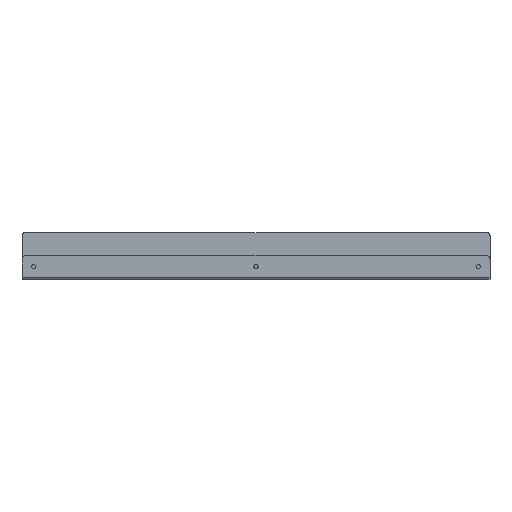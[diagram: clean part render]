
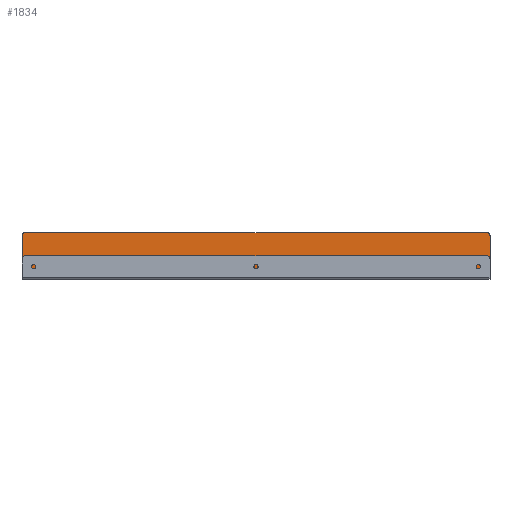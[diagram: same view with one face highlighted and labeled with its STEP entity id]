
A CAD part, top view. The second image highlights one B-rep face of the part: STEP entity #1834.
In plain terms, the highlighted planar face has unit normal (0, 0, 1).
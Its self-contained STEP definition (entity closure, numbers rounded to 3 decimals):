
#43 = DIRECTION ( 'NONE',  ( 0., -1., 0. ) ) ;
#128 = CARTESIAN_POINT ( 'NONE',  ( 400., 35., 0. ) ) ;
#148 = LINE ( 'NONE', #888, #1036 ) ;
#184 = LINE ( 'NONE', #1696, #1550 ) ;
#198 = VECTOR ( 'NONE', #1217, 1000. ) ;
#225 = EDGE_CURVE ( 'NONE', #2084, #2369, #184, .T. ) ;
#318 = CIRCLE ( 'NONE', #791, 5. ) ;
#336 = VERTEX_POINT ( 'NONE', #1961 ) ;
#369 = ORIENTED_EDGE ( 'NONE', *, *, #1909, .T. ) ;
#404 = ORIENTED_EDGE ( 'NONE', *, *, #1732, .T. ) ;
#444 = EDGE_CURVE ( 'NONE', #2359, #929, #623, .T. ) ;
#536 = DIRECTION ( 'NONE',  ( -1., 0., 0. ) ) ;
#574 = CARTESIAN_POINT ( 'NONE',  ( -400., -37., 0. ) ) ;
#612 = DIRECTION ( 'NONE',  ( 1., 0., 0. ) ) ;
#623 = CIRCLE ( 'NONE', #1935, 5. ) ;
#650 = FACE_OUTER_BOUND ( 'NONE', #2065, .T. ) ;
#651 = DIRECTION ( 'NONE',  ( 0., 0., 1. ) ) ;
#791 = AXIS2_PLACEMENT_3D ( 'NONE', #1933, #651, #2319 ) ;
#848 = CARTESIAN_POINT ( 'NONE',  ( 395., 35., 0. ) ) ;
#888 = CARTESIAN_POINT ( 'NONE',  ( 400., -40., 0. ) ) ;
#929 = VERTEX_POINT ( 'NONE', #2301 ) ;
#978 = LINE ( 'NONE', #1981, #1270 ) ;
#1036 = VECTOR ( 'NONE', #1446, 1000. ) ;
#1167 = PLANE ( 'NONE',  #1275 ) ;
#1174 = DIRECTION ( 'NONE',  ( 0., 0., 1. ) ) ;
#1192 = LINE ( 'NONE', #1763, #198 ) ;
#1217 = DIRECTION ( 'NONE',  ( -1., 0., 0. ) ) ;
#1233 = CARTESIAN_POINT ( 'NONE',  ( -400., 35., 0. ) ) ;
#1270 = VECTOR ( 'NONE', #43, 1000. ) ;
#1275 = AXIS2_PLACEMENT_3D ( 'NONE', #2294, #1411, #612 ) ;
#1352 = EDGE_CURVE ( 'NONE', #336, #1552, #318, .T. ) ;
#1353 = ORIENTED_EDGE ( 'NONE', *, *, #1352, .T. ) ;
#1383 = EDGE_CURVE ( 'NONE', #1552, #2369, #978, .T. ) ;
#1411 = DIRECTION ( 'NONE',  ( 0., 0., 1. ) ) ;
#1446 = DIRECTION ( 'NONE',  ( 0., 1., 0. ) ) ;
#1519 = CARTESIAN_POINT ( 'NONE',  ( 400., -37., 0. ) ) ;
#1550 = VECTOR ( 'NONE', #536, 1000. ) ;
#1552 = VERTEX_POINT ( 'NONE', #1233 ) ;
#1696 = CARTESIAN_POINT ( 'NONE',  ( 400., -37., 0. ) ) ;
#1732 = EDGE_CURVE ( 'NONE', #929, #336, #1192, .T. ) ;
#1763 = CARTESIAN_POINT ( 'NONE',  ( 400., 40., 0. ) ) ;
#1774 = DIRECTION ( 'NONE',  ( 1., 0., 0. ) ) ;
#1834 = ADVANCED_FACE ( 'NONE', ( #650 ), #1167, .T. ) ;
#1909 = EDGE_CURVE ( 'NONE', #2084, #2359, #148, .T. ) ;
#1918 = ORIENTED_EDGE ( 'NONE', *, *, #225, .F. ) ;
#1933 = CARTESIAN_POINT ( 'NONE',  ( -395., 35., 0. ) ) ;
#1935 = AXIS2_PLACEMENT_3D ( 'NONE', #848, #1174, #1774 ) ;
#1939 = ORIENTED_EDGE ( 'NONE', *, *, #444, .T. ) ;
#1961 = CARTESIAN_POINT ( 'NONE',  ( -395., 40., 0. ) ) ;
#1981 = CARTESIAN_POINT ( 'NONE',  ( -400., -40., 0. ) ) ;
#2065 = EDGE_LOOP ( 'NONE', ( #404, #1353, #2160, #1918, #369, #1939 ) ) ;
#2084 = VERTEX_POINT ( 'NONE', #1519 ) ;
#2160 = ORIENTED_EDGE ( 'NONE', *, *, #1383, .T. ) ;
#2294 = CARTESIAN_POINT ( 'NONE',  ( 0., 0., 0. ) ) ;
#2301 = CARTESIAN_POINT ( 'NONE',  ( 395., 40., 0. ) ) ;
#2319 = DIRECTION ( 'NONE',  ( 1., 0., 0. ) ) ;
#2359 = VERTEX_POINT ( 'NONE', #128 ) ;
#2369 = VERTEX_POINT ( 'NONE', #574 ) ;
